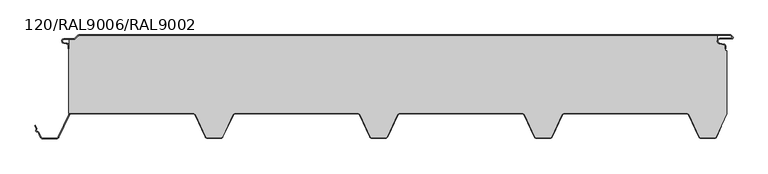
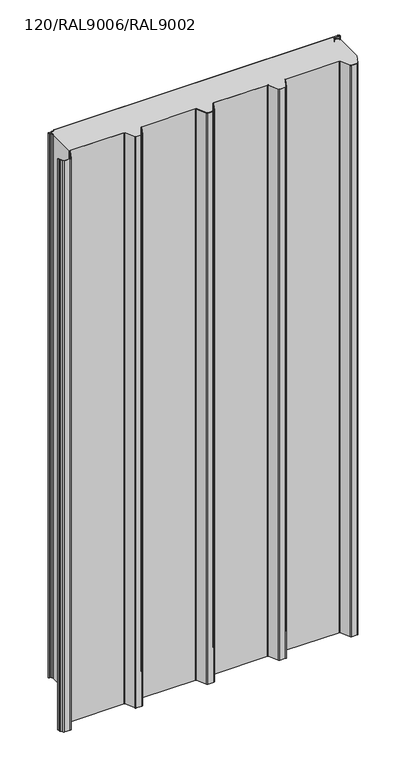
"""IFC4 building model written with IfcOpenShell, lengths in millimetres: plate geometry, TR_C_SNV_Panel_LAYOUT : 120/RAL9006/RAL9002."""

from ifc_helpers import new_model, si_unit, point, frame, frame_2d, origin, origin_with_axes, place, context, project, spatial, polyline, circle_curve, trimmed, segment, composite_curve, outline, extrude, source, transform, mapped, element, save


def plate_120_ral9006_ral9002_e4ba5327(model_context):
    return source(origin(), model_context, "Body", "SweptSolid", [
        extrude(outline(composite_curve([segment(polyline([(-471.395, -21.0), (-471.395, -16.8869672)]), True, "CONTINUOUS"), segment(trimmed(circle_curve(frame_2d((-475.145, -16.8869672)), 3.75), [point((-471.395, -16.8869672))], [point((-474.4938193, -13.1939382))], True, "CARTESIAN"), True, "CONTINUOUS"), segment(polyline([(-474.4938193, -13.1939382), (-478.7093566, -12.4506252)]), True, "CONTINUOUS"), segment(trimmed(circle_curve(frame_2d((-478.145, -9.25)), 3.25), [point((-478.7093566, -12.4506252))], [point((-478.145, -6.0))], False, "CARTESIAN"), True, "CONTINUOUS"), segment(polyline([(-478.145, -6.0), (-463.395, -6.0)]), True, "CONTINUOUS"), segment(trimmed(circle_curve(frame_2d((-463.395, -3.5)), 2.5), [point((-463.395, -6.0))], [point((-461.627233, -5.267767))], True, "CARTESIAN"), True, "CONTINUOUS"), segment(polyline([(-461.627233, -5.267767), (-457.2381458, -0.8786797)]), True, "CONTINUOUS"), segment(trimmed(circle_curve(frame_2d((-455.1168254, -3.0)), 3.0), [point((-457.2381458, -0.8786797))], [point((-455.1168254, 0.0))], False, "CARTESIAN"), True, "CONTINUOUS"), segment(polyline([(-455.1168254, 0.0), (534.2236292, 0.0)]), True, "CONTINUOUS"), segment(trimmed(circle_curve(frame_2d((534.2236292, -2.75)), 2.75), [point((534.2236292, 0.0))], [point((536.1681728, -0.8054564))], False, "CARTESIAN"), True, "CONTINUOUS"), segment(polyline([(536.1681728, -0.8054564), (538.0338582, -2.6711418)]), True, "CONTINUOUS"), segment(trimmed(circle_curve(frame_2d((536.655, -4.05)), 1.95), [point((538.0338582, -2.6711418))], [point((536.655, -6.0))], False, "CARTESIAN"), True, "CONTINUOUS"), segment(polyline([(536.655, -6.0), (519.055, -6.0)]), True, "CONTINUOUS"), segment(trimmed(circle_curve(frame_2d((519.055, -9.45)), 3.45), [point((519.055, -6.0))], [point((518.4559138, -12.8475867))], True, "CARTESIAN"), True, "CONTINUOUS"), segment(polyline([(518.4559138, -12.8475867), (524.5061807, -13.914412)]), True, "CONTINUOUS"), segment(trimmed(circle_curve(frame_2d((523.855, -17.6074411)), 3.75), [point((524.5061807, -13.914412))], [point((527.605, -17.6074411))], False, "CARTESIAN"), True, "CONTINUOUS"), segment(polyline([(527.605, -17.6074411), (527.605, -21.0), (526.805, -21.0), (526.805, -17.6074411)]), True, "CONTINUOUS"), segment(trimmed(circle_curve(frame_2d((523.855, -17.6074411)), 2.95), [point((526.805, -17.6074411))], [point((524.3672621, -14.7022582))], True, "CARTESIAN"), True, "CONTINUOUS"), segment(polyline([(524.3672621, -14.7022582), (518.3169952, -13.635433)]), True, "CONTINUOUS"), segment(trimmed(circle_curve(frame_2d((519.055, -9.45)), 4.25), [point((518.3169952, -13.635433))], [point((519.055, -5.2))], False, "CARTESIAN"), True, "CONTINUOUS"), segment(polyline([(519.055, -5.2), (536.655, -5.2)]), True, "CONTINUOUS"), segment(trimmed(circle_curve(frame_2d((536.655, -4.05)), 1.15), [point((536.655, -5.2))], [point((537.4681728, -3.2368272))], True, "CARTESIAN"), True, "CONTINUOUS"), segment(polyline([(537.4681728, -3.2368272), (535.6024874, -1.3711418)]), True, "CONTINUOUS"), segment(trimmed(circle_curve(frame_2d((534.2236292, -2.75)), 1.95), [point((535.6024874, -1.3711418))], [point((534.2236292, -0.8))], True, "CARTESIAN"), True, "CONTINUOUS"), segment(polyline([(534.2236292, -0.8), (-455.1168254, -0.8)]), True, "CONTINUOUS"), segment(trimmed(circle_curve(frame_2d((-455.1168254, -3.0)), 2.2), [point((-455.1168254, -0.8))], [point((-456.6724603, -1.4443651))], True, "CARTESIAN"), True, "CONTINUOUS"), segment(polyline([(-456.6724603, -1.4443651), (-461.0615476, -5.8334524)]), True, "CONTINUOUS"), segment(trimmed(circle_curve(frame_2d((-463.395, -3.5)), 3.3), [point((-461.0615476, -5.8334524))], [point((-463.395, -6.8))], False, "CARTESIAN"), True, "CONTINUOUS"), segment(polyline([(-463.395, -6.8), (-478.145, -6.8)]), True, "CONTINUOUS"), segment(trimmed(circle_curve(frame_2d((-478.145, -9.25)), 2.45), [point((-478.145, -6.8))], [point((-478.570438, -11.662779))], True, "CARTESIAN"), True, "CONTINUOUS"), segment(polyline([(-478.570438, -11.662779), (-474.3549008, -12.4060919)]), True, "CONTINUOUS"), segment(trimmed(circle_curve(frame_2d((-475.145, -16.8869672)), 4.55), [point((-474.3549008, -12.4060919))], [point((-470.595, -16.8869672))], False, "CARTESIAN"), True, "CONTINUOUS"), segment(polyline([(-470.595, -16.8869672), (-470.595, -21.0), (-471.395, -21.0)]), True, "CONTINUOUS")], self_intersect=False)), origin_with_axes(), (0.0, 0.0, 1.0), 2000.0),
        extrude(outline(composite_curve([segment(polyline([(-471.0, -21.0), (-470.2, -21.0), (-470.2, -6.8), (-463.395, -6.8)]), True, "CONTINUOUS"), segment(trimmed(circle_curve(frame_2d((-463.395, -3.5)), 3.3), [point((-463.395, -6.8))], [point((-461.0615476, -5.8334524))], True, "CARTESIAN"), True, "CONTINUOUS"), segment(polyline([(-461.0615476, -5.8334524), (-456.6724603, -1.4443651)]), True, "CONTINUOUS"), segment(trimmed(circle_curve(frame_2d((-455.1168254, -3.0)), 2.2), [point((-456.6724603, -1.4443651))], [point((-455.1168254, -0.8))], False, "CARTESIAN"), True, "CONTINUOUS"), segment(polyline([(-455.1168254, -0.8), (514.805, -0.8), (514.805, -9.45)]), True, "CONTINUOUS"), segment(trimmed(circle_curve(frame_2d((519.055, -9.45)), 4.25), [point((514.805, -9.45))], [point((518.3169952, -13.635433))], True, "CARTESIAN"), True, "CONTINUOUS"), segment(polyline([(518.3169952, -13.635433), (524.3672621, -14.7022582)]), True, "CONTINUOUS"), segment(trimmed(circle_curve(frame_2d((523.855, -17.6074411)), 2.95), [point((524.3672621, -14.7022582))], [point((526.805, -17.6074411))], False, "CARTESIAN"), True, "CONTINUOUS"), segment(polyline([(526.805, -17.6074411), (526.805, -23.7), (529.0, -23.7), (529.0, -119.721065), (512.7706404, -154.5255774)]), True, "CONTINUOUS"), segment(trimmed(circle_curve(frame_2d((510.1423406, -153.3)), 2.9), [point((512.7706404, -154.5255774))], [point((510.1423406, -156.2))], False, "CARTESIAN"), True, "CONTINUOUS"), segment(polyline([(510.1423406, -156.2), (489.8576594, -156.2)]), True, "CONTINUOUS"), segment(trimmed(circle_curve(frame_2d((489.8576594, -153.3)), 2.9), [point((489.8576594, -156.2))], [point((487.2293596, -154.5255774))], False, "CARTESIAN"), True, "CONTINUOUS"), segment(polyline([(487.2293596, -154.5255774), (471.7801235, -121.394071)]), True, "CONTINUOUS"), segment(trimmed(circle_curve(frame_2d((468.3361444, -123.0)), 3.8), [point((471.7801235, -121.394071))], [point((468.3361444, -119.2))], True, "CARTESIAN"), True, "CONTINUOUS"), segment(polyline([(468.3361444, -119.2), (281.6638556, -119.2)]), True, "CONTINUOUS"), segment(trimmed(circle_curve(frame_2d((281.6638556, -123.0)), 3.8), [point((281.6638556, -119.2))], [point((278.2198765, -121.394071))], True, "CARTESIAN"), True, "CONTINUOUS"), segment(polyline([(278.2198765, -121.394071), (262.7706404, -154.5255774)]), True, "CONTINUOUS"), segment(trimmed(circle_curve(frame_2d((260.1423406, -153.3)), 2.9), [point((262.7706404, -154.5255774))], [point((260.1423406, -156.2))], False, "CARTESIAN"), True, "CONTINUOUS"), segment(polyline([(260.1423406, -156.2), (239.8576594, -156.2)]), True, "CONTINUOUS"), segment(trimmed(circle_curve(frame_2d((239.8576594, -153.3)), 2.9), [point((239.8576594, -156.2))], [point((237.2293596, -154.5255774))], False, "CARTESIAN"), True, "CONTINUOUS"), segment(polyline([(237.2293596, -154.5255774), (221.7801235, -121.394071)]), True, "CONTINUOUS"), segment(trimmed(circle_curve(frame_2d((218.3361444, -123.0)), 3.8), [point((221.7801235, -121.394071))], [point((218.3361444, -119.2))], True, "CARTESIAN"), True, "CONTINUOUS"), segment(polyline([(218.3361444, -119.2), (31.6638556, -119.2)]), True, "CONTINUOUS"), segment(trimmed(circle_curve(frame_2d((31.6638556, -123.0)), 3.8), [point((31.6638556, -119.2))], [point((28.2198765, -121.394071))], True, "CARTESIAN"), True, "CONTINUOUS"), segment(polyline([(28.2198765, -121.394071), (12.7706404, -154.5255774)]), True, "CONTINUOUS"), segment(trimmed(circle_curve(frame_2d((10.1423406, -153.3)), 2.9), [point((12.7706404, -154.5255774))], [point((10.1423406, -156.2))], False, "CARTESIAN"), True, "CONTINUOUS"), segment(polyline([(10.1423406, -156.2), (-10.1423406, -156.2)]), True, "CONTINUOUS"), segment(trimmed(circle_curve(frame_2d((-10.1423406, -153.3)), 2.9), [point((-10.1423406, -156.2))], [point((-12.7706404, -154.5255774))], False, "CARTESIAN"), True, "CONTINUOUS"), segment(polyline([(-12.7706404, -154.5255774), (-28.2198765, -121.394071)]), True, "CONTINUOUS"), segment(trimmed(circle_curve(frame_2d((-31.6638556, -123.0)), 3.8), [point((-28.2198765, -121.394071))], [point((-31.6638556, -119.2))], True, "CARTESIAN"), True, "CONTINUOUS"), segment(polyline([(-31.6638556, -119.2), (-218.3361444, -119.2)]), True, "CONTINUOUS"), segment(trimmed(circle_curve(frame_2d((-218.3361444, -123.0)), 3.8), [point((-218.3361444, -119.2))], [point((-221.7801235, -121.394071))], True, "CARTESIAN"), True, "CONTINUOUS"), segment(polyline([(-221.7801235, -121.394071), (-237.2293596, -154.5255774)]), True, "CONTINUOUS"), segment(trimmed(circle_curve(frame_2d((-239.8576594, -153.3)), 2.9), [point((-237.2293596, -154.5255774))], [point((-239.8576594, -156.2))], False, "CARTESIAN"), True, "CONTINUOUS"), segment(polyline([(-239.8576594, -156.2), (-260.1423406, -156.2)]), True, "CONTINUOUS"), segment(trimmed(circle_curve(frame_2d((-260.1423406, -153.3)), 2.9), [point((-260.1423406, -156.2))], [point((-262.7706404, -154.5255774))], False, "CARTESIAN"), True, "CONTINUOUS"), segment(polyline([(-262.7706404, -154.5255774), (-278.2198765, -121.394071)]), True, "CONTINUOUS"), segment(trimmed(circle_curve(frame_2d((-281.6638556, -123.0)), 3.8), [point((-278.2198765, -121.394071))], [point((-281.6638556, -119.2))], True, "CARTESIAN"), True, "CONTINUOUS"), segment(polyline([(-281.6638556, -119.2), (-471.0, -119.2), (-471.0, -21.0)]), True, "CONTINUOUS")], self_intersect=False)), origin_with_axes(), (0.0, 0.0, 1.0), 2000.0),
        extrude(outline(composite_curve([segment(polyline([(-520.1804593, -142.4208943), (-522.2988356, -137.8779514), (-521.5737873, -137.5398611), (-519.4554111, -142.082804)]), True, "CONTINUOUS"), segment(trimmed(circle_curve(frame_2d((-521.1774006, -142.8857685)), 1.9), [point((-519.4554111, -142.082804))], [point((-519.3947427, -143.5431351))], False, "CARTESIAN"), True, "CONTINUOUS"), segment(polyline([(-519.3947427, -143.5431351), (-519.958046, -145.0707104)]), True, "CONTINUOUS"), segment(trimmed(circle_curve(frame_2d((-519.1136291, -145.3820946)), 0.9), [point((-519.958046, -145.0707104))], [point((-519.4178858, -146.2291058))], True, "CARTESIAN"), True, "CONTINUOUS"), segment(polyline([(-519.4178858, -146.2291058), (-517.8856174, -146.779515)]), True, "CONTINUOUS"), segment(trimmed(circle_curve(frame_2d((-518.5279369, -148.5676497)), 1.9), [point((-517.8856174, -146.779515))], [point((-516.8059473, -147.7646852))], False, "CARTESIAN"), True, "CONTINUOUS"), segment(polyline([(-516.8059473, -147.7646852), (-513.4956887, -154.8636677)]), True, "CONTINUOUS"), segment(trimmed(circle_curve(frame_2d((-510.1423406, -153.3)), 3.7), [point((-513.4956887, -154.8636677))], [point((-510.1423406, -157.0))], True, "CARTESIAN"), True, "CONTINUOUS"), segment(polyline([(-510.1423406, -157.0), (-489.8576594, -157.0)]), True, "CONTINUOUS"), segment(trimmed(circle_curve(frame_2d((-489.8576594, -153.3)), 3.7), [point((-489.8576594, -157.0))], [point((-486.5043113, -154.8636677))], True, "CARTESIAN"), True, "CONTINUOUS"), segment(polyline([(-486.5043113, -154.8636677), (-470.8974236, -121.394071)]), True, "CONTINUOUS"), segment(trimmed(circle_curve(frame_2d((-467.4534445, -123.0)), 3.8), [point((-470.8974236, -121.394071))], [point((-467.4534445, -119.2))], False, "CARTESIAN"), True, "CONTINUOUS"), segment(polyline([(-467.4534445, -119.2), (-281.6638556, -119.2)]), True, "CONTINUOUS"), segment(trimmed(circle_curve(frame_2d((-281.6638556, -123.0)), 3.8), [point((-281.6638556, -119.2))], [point((-278.2198765, -121.394071))], False, "CARTESIAN"), True, "CONTINUOUS"), segment(polyline([(-278.2198765, -121.394071), (-262.7706404, -154.5255774)]), True, "CONTINUOUS"), segment(trimmed(circle_curve(frame_2d((-260.1423406, -153.3)), 2.9), [point((-262.7706404, -154.5255774))], [point((-260.1423406, -156.2))], True, "CARTESIAN"), True, "CONTINUOUS"), segment(polyline([(-260.1423406, -156.2), (-239.8576594, -156.2)]), True, "CONTINUOUS"), segment(trimmed(circle_curve(frame_2d((-239.8576594, -153.3)), 2.9), [point((-239.8576594, -156.2))], [point((-237.2293596, -154.5255774))], True, "CARTESIAN"), True, "CONTINUOUS"), segment(polyline([(-237.2293596, -154.5255774), (-221.7801235, -121.394071)]), True, "CONTINUOUS"), segment(trimmed(circle_curve(frame_2d((-218.3361444, -123.0)), 3.8), [point((-221.7801235, -121.394071))], [point((-218.3361444, -119.2))], False, "CARTESIAN"), True, "CONTINUOUS"), segment(polyline([(-218.3361444, -119.2), (-31.6638556, -119.2)]), True, "CONTINUOUS"), segment(trimmed(circle_curve(frame_2d((-31.6638556, -123.0)), 3.8), [point((-31.6638556, -119.2))], [point((-28.2198765, -121.394071))], False, "CARTESIAN"), True, "CONTINUOUS"), segment(polyline([(-28.2198765, -121.394071), (-12.7706404, -154.5255774)]), True, "CONTINUOUS"), segment(trimmed(circle_curve(frame_2d((-10.1423406, -153.3)), 2.9), [point((-12.7706404, -154.5255774))], [point((-10.1423406, -156.2))], True, "CARTESIAN"), True, "CONTINUOUS"), segment(polyline([(-10.1423406, -156.2), (10.1423406, -156.2)]), True, "CONTINUOUS"), segment(trimmed(circle_curve(frame_2d((10.1423406, -153.3)), 2.9), [point((10.1423406, -156.2))], [point((12.7706404, -154.5255774))], True, "CARTESIAN"), True, "CONTINUOUS"), segment(polyline([(12.7706404, -154.5255774), (28.2198765, -121.394071)]), True, "CONTINUOUS"), segment(trimmed(circle_curve(frame_2d((31.6638556, -123.0)), 3.8), [point((28.2198765, -121.394071))], [point((31.6638556, -119.2))], False, "CARTESIAN"), True, "CONTINUOUS"), segment(polyline([(31.6638556, -119.2), (218.3361444, -119.2)]), True, "CONTINUOUS"), segment(trimmed(circle_curve(frame_2d((218.3361444, -123.0)), 3.8), [point((218.3361444, -119.2))], [point((221.7801235, -121.394071))], False, "CARTESIAN"), True, "CONTINUOUS"), segment(polyline([(221.7801235, -121.394071), (237.2293596, -154.5255774)]), True, "CONTINUOUS"), segment(trimmed(circle_curve(frame_2d((239.8576594, -153.3)), 2.9), [point((237.2293596, -154.5255774))], [point((239.8576594, -156.2))], True, "CARTESIAN"), True, "CONTINUOUS"), segment(polyline([(239.8576594, -156.2), (260.1423406, -156.2)]), True, "CONTINUOUS"), segment(trimmed(circle_curve(frame_2d((260.1423406, -153.3)), 2.9), [point((260.1423406, -156.2))], [point((262.7706404, -154.5255774))], True, "CARTESIAN"), True, "CONTINUOUS"), segment(polyline([(262.7706404, -154.5255774), (278.2198765, -121.394071)]), True, "CONTINUOUS"), segment(trimmed(circle_curve(frame_2d((281.6638556, -123.0)), 3.8), [point((278.2198765, -121.394071))], [point((281.6638556, -119.2))], False, "CARTESIAN"), True, "CONTINUOUS"), segment(polyline([(281.6638556, -119.2), (468.3361444, -119.2)]), True, "CONTINUOUS"), segment(trimmed(circle_curve(frame_2d((468.3361444, -123.0)), 3.8), [point((468.3361444, -119.2))], [point((471.7801235, -121.394071))], False, "CARTESIAN"), True, "CONTINUOUS"), segment(polyline([(471.7801235, -121.394071), (487.2293596, -154.5255774)]), True, "CONTINUOUS"), segment(trimmed(circle_curve(frame_2d((489.8576594, -153.3)), 2.9), [point((487.2293596, -154.5255774))], [point((489.8576594, -156.2))], True, "CARTESIAN"), True, "CONTINUOUS"), segment(polyline([(489.8576594, -156.2), (510.1423406, -156.2)]), True, "CONTINUOUS"), segment(trimmed(circle_curve(frame_2d((510.1423406, -153.3)), 2.9), [point((510.1423406, -156.2))], [point((512.7706404, -154.5255774))], True, "CARTESIAN"), True, "CONTINUOUS"), segment(polyline([(512.7706404, -154.5255774), (520.2409801, -138.5051344), (520.9660283, -138.8432247), (513.4956887, -154.8636677)]), True, "CONTINUOUS"), segment(trimmed(circle_curve(frame_2d((510.1423406, -153.3)), 3.7), [point((513.4956887, -154.8636677))], [point((510.1423406, -157.0))], False, "CARTESIAN"), True, "CONTINUOUS"), segment(polyline([(510.1423406, -157.0), (489.8576594, -157.0)]), True, "CONTINUOUS"), segment(trimmed(circle_curve(frame_2d((489.8576594, -153.3)), 3.7), [point((489.8576594, -157.0))], [point((486.5043113, -154.8636677))], False, "CARTESIAN"), True, "CONTINUOUS"), segment(polyline([(486.5043113, -154.8636677), (471.0550752, -121.7321613)]), True, "CONTINUOUS"), segment(trimmed(circle_curve(frame_2d((468.3361444, -123.0)), 3.0), [point((471.0550752, -121.7321613))], [point((468.3361444, -120.0))], True, "CARTESIAN"), True, "CONTINUOUS"), segment(polyline([(468.3361444, -120.0), (281.6638556, -120.0)]), True, "CONTINUOUS"), segment(trimmed(circle_curve(frame_2d((281.6638556, -123.0)), 3.0), [point((281.6638556, -120.0))], [point((278.9449248, -121.7321613))], True, "CARTESIAN"), True, "CONTINUOUS"), segment(polyline([(278.9449248, -121.7321613), (263.4956887, -154.8636677)]), True, "CONTINUOUS"), segment(trimmed(circle_curve(frame_2d((260.1423406, -153.3)), 3.7), [point((263.4956887, -154.8636677))], [point((260.1423406, -157.0))], False, "CARTESIAN"), True, "CONTINUOUS"), segment(polyline([(260.1423406, -157.0), (239.8576594, -157.0)]), True, "CONTINUOUS"), segment(trimmed(circle_curve(frame_2d((239.8576594, -153.3)), 3.7), [point((239.8576594, -157.0))], [point((236.5043113, -154.8636677))], False, "CARTESIAN"), True, "CONTINUOUS"), segment(polyline([(236.5043113, -154.8636677), (221.0550752, -121.7321613)]), True, "CONTINUOUS"), segment(trimmed(circle_curve(frame_2d((218.3361444, -123.0)), 3.0), [point((221.0550752, -121.7321613))], [point((218.3361444, -120.0))], True, "CARTESIAN"), True, "CONTINUOUS"), segment(polyline([(218.3361444, -120.0), (31.6638556, -120.0)]), True, "CONTINUOUS"), segment(trimmed(circle_curve(frame_2d((31.6638556, -123.0)), 3.0), [point((31.6638556, -120.0))], [point((28.9449248, -121.7321613))], True, "CARTESIAN"), True, "CONTINUOUS"), segment(polyline([(28.9449248, -121.7321613), (13.4956887, -154.8636677)]), True, "CONTINUOUS"), segment(trimmed(circle_curve(frame_2d((10.1423406, -153.3)), 3.7), [point((13.4956887, -154.8636677))], [point((10.1423406, -157.0))], False, "CARTESIAN"), True, "CONTINUOUS"), segment(polyline([(10.1423406, -157.0), (-10.1423406, -157.0)]), True, "CONTINUOUS"), segment(trimmed(circle_curve(frame_2d((-10.1423406, -153.3)), 3.7), [point((-10.1423406, -157.0))], [point((-13.4956887, -154.8636677))], False, "CARTESIAN"), True, "CONTINUOUS"), segment(polyline([(-13.4956887, -154.8636677), (-28.9449248, -121.7321613)]), True, "CONTINUOUS"), segment(trimmed(circle_curve(frame_2d((-31.6638556, -123.0)), 3.0), [point((-28.9449248, -121.7321613))], [point((-31.6638556, -120.0))], True, "CARTESIAN"), True, "CONTINUOUS"), segment(polyline([(-31.6638556, -120.0), (-218.3361444, -120.0)]), True, "CONTINUOUS"), segment(trimmed(circle_curve(frame_2d((-218.3361444, -123.0)), 3.0), [point((-218.3361444, -120.0))], [point((-221.0550752, -121.7321613))], True, "CARTESIAN"), True, "CONTINUOUS"), segment(polyline([(-221.0550752, -121.7321613), (-236.5043113, -154.8636677)]), True, "CONTINUOUS"), segment(trimmed(circle_curve(frame_2d((-239.8576594, -153.3)), 3.7), [point((-236.5043113, -154.8636677))], [point((-239.8576594, -157.0))], False, "CARTESIAN"), True, "CONTINUOUS"), segment(polyline([(-239.8576594, -157.0), (-260.1423406, -157.0)]), True, "CONTINUOUS"), segment(trimmed(circle_curve(frame_2d((-260.1423406, -153.3)), 3.7), [point((-260.1423406, -157.0))], [point((-263.4956887, -154.8636677))], False, "CARTESIAN"), True, "CONTINUOUS"), segment(polyline([(-263.4956887, -154.8636677), (-278.9449248, -121.7321613)]), True, "CONTINUOUS"), segment(trimmed(circle_curve(frame_2d((-281.6638556, -123.0)), 3.0), [point((-278.9449248, -121.7321613))], [point((-281.6638556, -120.0))], True, "CARTESIAN"), True, "CONTINUOUS"), segment(polyline([(-281.6638556, -120.0), (-467.4534445, -120.0)]), True, "CONTINUOUS"), segment(trimmed(circle_curve(frame_2d((-467.4534445, -123.0)), 3.0), [point((-467.4534445, -120.0))], [point((-470.1723753, -121.7321613))], True, "CARTESIAN"), True, "CONTINUOUS"), segment(polyline([(-470.1723753, -121.7321613), (-485.7792631, -155.201758)]), True, "CONTINUOUS"), segment(trimmed(circle_curve(frame_2d((-489.8576594, -153.3)), 4.5), [point((-485.7792631, -155.201758))], [point((-489.8576594, -157.8))], False, "CARTESIAN"), True, "CONTINUOUS"), segment(polyline([(-489.8576594, -157.8), (-510.1423406, -157.8)]), True, "CONTINUOUS"), segment(trimmed(circle_curve(frame_2d((-510.1423406, -153.3)), 4.5), [point((-510.1423406, -157.8))], [point((-514.2207369, -155.201758))], False, "CARTESIAN"), True, "CONTINUOUS"), segment(polyline([(-514.2207369, -155.201758), (-517.5309956, -148.1027755)]), True, "CONTINUOUS"), segment(trimmed(circle_curve(frame_2d((-518.5279369, -148.5676497)), 1.1), [point((-517.5309956, -148.1027755))], [point((-518.1560677, -147.5324138))], True, "CARTESIAN"), True, "CONTINUOUS"), segment(polyline([(-518.1560677, -147.5324138), (-519.6883361, -146.9820046)]), True, "CONTINUOUS"), segment(trimmed(circle_curve(frame_2d((-519.1136291, -145.3820946)), 1.7), [point((-519.6883361, -146.9820046))], [point((-520.7086388, -144.7939244))], False, "CARTESIAN"), True, "CONTINUOUS"), segment(polyline([(-520.7086388, -144.7939244), (-520.1453355, -143.2663492)]), True, "CONTINUOUS"), segment(trimmed(circle_curve(frame_2d((-521.1774006, -142.8857685)), 1.1), [point((-520.1453355, -143.2663492))], [point((-520.1804593, -142.4208943))], True, "CARTESIAN"), True, "CONTINUOUS")], self_intersect=False)), frame((0.0, 0.0, -100.0), z_axis=(0.0, 0.0, 1.0), x_axis=(1.0, 0.0, 0.0)), (0.0, 0.0, 1.0), 2100.0),
    ])


if __name__ == "__main__":
    model = new_model("IFC4")
    model_context = context("Model", 3, world=origin())
    ifc_project = project(units=[si_unit("LENGTHUNIT", "METRE", prefix="MILLI")], contexts=[model_context])
    site = spatial("IfcSite", under=ifc_project)
    building = spatial("IfcBuilding", under=site)
    placement = place(None, origin())
    plate_120_ral9006_ral9002_shape = plate_120_ral9006_ral9002_e4ba5327(model_context)
    element("IfcPlate", 1, ObjectType="TR_C_SNV_Panel_LAYOUT : 120/RAL9006/RAL9002", at=placement, inside=building, context=model_context, shape_type="MappedRepresentation", body=[
        mapped(plate_120_ral9006_ral9002_shape, transform((0.0, 0.0, 0.0), x_axis=(1.0, 0.0, 0.0), y_axis=(0.0, 1.0, 0.0), z_axis=(0.0, 0.0, 1.0))),
    ])
    save(model, "model.ifc")
